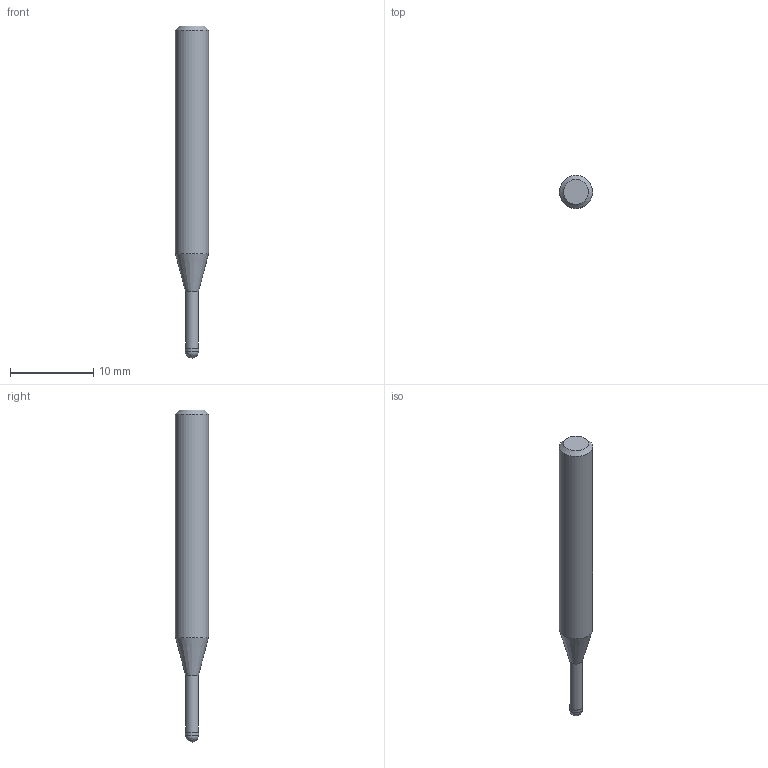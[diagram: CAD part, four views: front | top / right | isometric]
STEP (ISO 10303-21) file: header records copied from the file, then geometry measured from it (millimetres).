
FILE_DESCRIPTION((''),'2;1');
FILE_NAME('C:\Users\nsx150\AppData\Local\Temp\Mastercam 2021\QT8KEW0Y7J\TEMP.step','2021-04-23T11:21:25',(''),(''),'STEP Write','Mastercam 2021 ... CNC Software, Inc.','');
FILE_SCHEMA(('AUTOMOTIVE_DESIGN'));
Length unit declared in the file: millimetre
Products named in the file (1): None
Bounding box: 4 x 4 x 40 mm (x, y, z)
Volume: 387.4 mm3; surface area: 437.5 mm2
Topology: 2 solids, 2 shells, 9 faces, 14 edges, 8 vertices
Faces by surface type: plane 3, cylinder 3, cone 2, sphere 1
Full cylindrical faces by diameter (mm): 1.55 x1, 1.6 x1, 4 x1
Entity records: 211 total; most frequent: DIRECTION 36, CARTESIAN_POINT 25, AXIS2_PLACEMENT_3D 18, ORIENTED_EDGE 14, EDGE_LOOP 14, STYLED_ITEM 12, ADVANCED_FACE 9, FACE_BOUND 8
